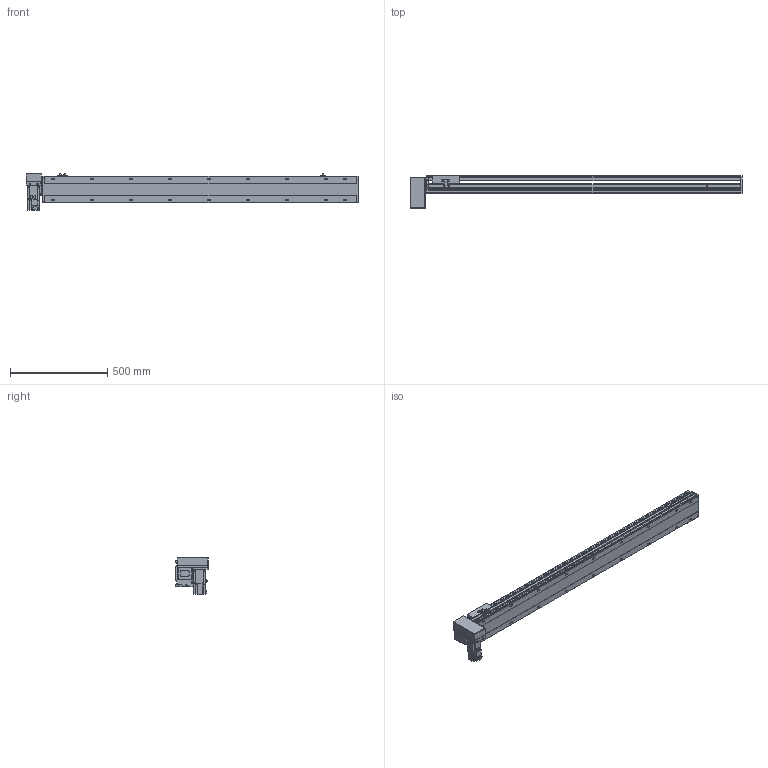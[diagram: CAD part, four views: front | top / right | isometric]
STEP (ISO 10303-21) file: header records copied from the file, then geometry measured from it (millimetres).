
FILE_DESCRIPTION(/* description */ ('STEP AP214'),/* implementation_level */ '2;1');
FILE_NAME(/* name */ 'PBS140S-P40-S1350-RD-T40-C1-N(0)',/* time_stamp */ '2022-06-09T02:43:35+02:00',/* author */ ('License CC BY-ND 4.0'),/* organization */ ('CADENAS'),/* preprocessor_version */ 'ST-DEVELOPER v18.102',/* originating_system */ 'PARTsolutions',/* authorisation */ ' ');
FILE_SCHEMA (('AUTOMOTIVE_DESIGN {1 0 10303 214 3 1 1}'));
Length unit declared in the file: millimetre
Products named in the file (7): PBS140S-P40-S1350-RD-T40-C1-N(0); PBS140S_sensor; PBS140S_plant; PBS140S_sliser; T40-p1; PBS140ST-RD_motors; PBS140S-S1350()_body
Assembly tree (8 placements, depth 2):
  PBS140S-P40-S1350-RD-T40-C1-N(0)
    PBS140S_sensor  x3
    PBS140S_plant
    PBS140S_sliser
    T40-p1
    PBS140ST-RD_motors
    PBS140S-S1350()_body
Bounding box: 1704 x 172.5 x 189.7 mm (x, y, z)
Volume: 8632684.3 mm3; surface area: 1480140.2 mm2
Topology: 8 solids, 8 shells, 1115 faces, 2951 edges, 1931 vertices
Faces by surface type: plane 708, cylinder 353, cone 44, sphere 8, torus 2
Full cylindrical faces by diameter (mm): 3.242 x4, 4 x2, 4.134 x4, 4.4 x8, 4.5 x2, 4.8 x4, 4.917 x26, 5.5 x7, 6 x2, 7 x20, 7.5 x8, 8 x12, 8.5 x4, 10.5 x18, 14 x1, 30 x2, 50 x2
Entity records: 31954 total; most frequent: CARTESIAN_POINT 5928, DIRECTION 5418, ORIENTED_EDGE 5122, EDGE_CURVE 2561, AXIS2_PLACEMENT_3D 1889, VERTEX_POINT 1777, LINE 1640, VECTOR 1640
